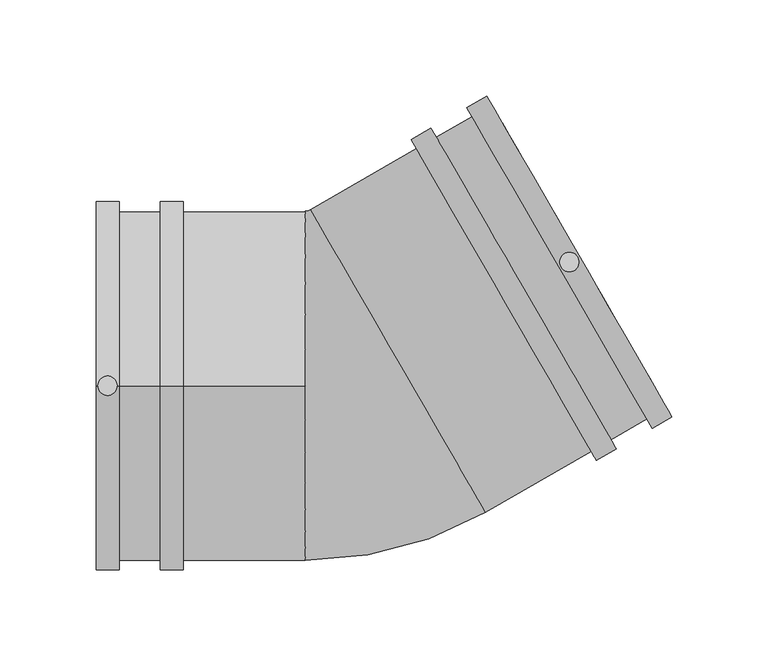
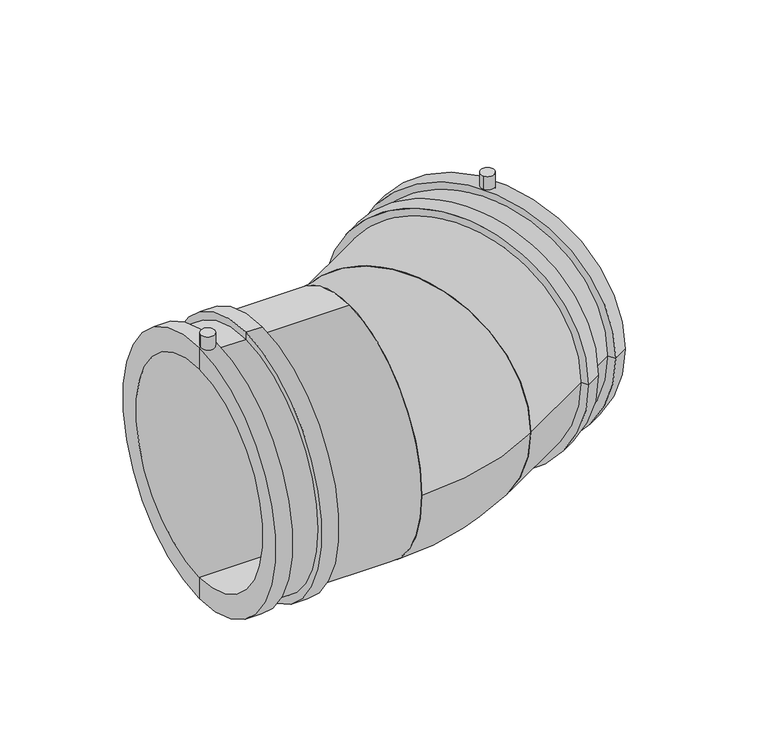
"""IFC4 building model written with IfcOpenShell, lengths in millimetres: pipe fitting geometry, Plumbing_Pipe-Fittings_Plasson_Wastewater-Elbow-30_473304 : Plumbing_Pipe-Fittings_Plasson_Wastewater-Elbow-30_473304."""

from ifc_helpers import new_model, si_unit, point, frame, frame_2d, origin, place, context, project, spatial, polyline, circle_curve, ellipse_curve, trimmed, segment, composite_curve, outline, extrude, source, transform, mapped, element, save
from ifc_brep_helpers import plane_surface, cylinder_surface, revolved_surface, advanced_brep


def pipe_fitting_85c0b7c4(model_context):
    return source(origin(), model_context, "Body", "SolidModel", [
        extrude(outline(composite_curve([segment(trimmed(circle_curve(frame_2d((-128.883892, 0.0)), 5.0), [point((-133.883892, 0.0))], [point((-123.883892, 0.0))], False, "CARTESIAN"), True, "CONTINUOUS"), segment(trimmed(circle_curve(frame_2d((-128.883892, 0.0)), 5.0), [point((-123.883892, 0.0))], [point((-133.883892, 0.0))], False, "CARTESIAN"), True, "CONTINUOUS")], self_intersect=False)), frame((0.0, 0.0, 88.25), z_axis=(0.0, 0.0, 1.0), x_axis=(1.0, 0.0, 0.0)), (0.0, 0.0, 1.0), 17.75),
        extrude(outline(composite_curve([segment(trimmed(circle_curve(frame_2d((111.6167246, 64.441946)), 5.0), [point((107.2865976, 61.941946))], [point((115.9468516, 66.941946))], False, "CARTESIAN"), True, "CONTINUOUS"), segment(trimmed(circle_curve(frame_2d((111.6167246, 64.441946)), 5.0), [point((115.9468516, 66.941946))], [point((107.2865976, 61.941946))], False, "CARTESIAN"), True, "CONTINUOUS")], self_intersect=False)), frame((0.0, 0.0, 88.25), z_axis=(0.0, 0.0, 1.0), x_axis=(1.0, 0.0, 0.0)), (0.0, 0.0, 1.0), 17.75),
        advanced_brep(
        [(156.812877, -1.8400863, 0.0), (76.812877, 136.7239783, 0.0), (-17.583892, 82.2239783, 0.0), (62.416108, -56.3400863, 0.0), (165.062877, -16.1295055, 0.0), (68.562877, 151.0133975, 0.0), (154.6705722, -22.1295055, 0.0), (58.1705722, 145.0133975, 0.0), (151.9205722, -17.3663657, 0.0), (60.9205722, 140.2502577, 0.0), (133.301026, -28.1163657, 0.0), (42.301026, 129.5002577, 0.0), (125.6732101, -38.8711403, 0.0), (29.1732101, 128.2717627, 0.0), (39.551026, 134.2633975, 0.0), (136.051026, -32.8795055, 0.0), (-23.083892, 91.7502577, 0.0), (67.916108, -65.8663657, 0.0), (122.9232101, -34.1080005, 0.0), (31.9232101, 123.508623, 0.0)],
        [
            (0, 1, circle_curve(frame((116.812877, 67.441946, 0.0), z_axis=(0.8660254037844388, 0.49999999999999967, 0.0), x_axis=(-0.49999999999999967, 0.8660254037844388, 0.0)), 80.0)),
            (1, 2),
            (2, 3, circle_curve(frame((22.416108, 12.941946, 0.0), z_axis=(-0.8660254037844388, -0.49999999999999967, 0.0), x_axis=(-0.49999999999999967, 0.8660254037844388, 0.0)), 80.0)),
            (3, 0),
            (1, 0, circle_curve(frame((116.812877, 67.441946, 0.0), z_axis=(0.8660254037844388, 0.49999999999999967, 0.0), x_axis=(-0.49999999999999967, 0.8660254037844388, 0.0)), 80.0)),
            (3, 2, circle_curve(frame((22.416108, 12.941946, 0.0), z_axis=(-0.8660254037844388, -0.49999999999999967, 0.0), x_axis=(-0.49999999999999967, 0.8660254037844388, 0.0)), 80.0)),
            (4, 5, circle_curve(frame((116.812877, 67.441946, 0.0), z_axis=(0.8660254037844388, 0.49999999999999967, 0.0), x_axis=(-0.49999999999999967, 0.8660254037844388, 0.0)), 96.5)),
            (5, 1),
            (0, 4),
            (5, 4, circle_curve(frame((116.812877, 67.441946, 0.0), z_axis=(0.8660254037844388, 0.49999999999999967, 0.0), x_axis=(-0.49999999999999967, 0.8660254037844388, 0.0)), 96.5)),
            (6, 7, circle_curve(frame((106.4205722, 61.441946, 0.0), z_axis=(0.8660254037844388, 0.49999999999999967, 0.0), x_axis=(-0.49999999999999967, 0.8660254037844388, 0.0)), 96.5)),
            (7, 5),
            (4, 6),
            (7, 6, circle_curve(frame((106.4205722, 61.441946, 0.0), z_axis=(0.8660254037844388, 0.49999999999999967, 0.0), x_axis=(-0.49999999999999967, 0.8660254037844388, 0.0)), 96.5)),
            (8, 9, circle_curve(frame((106.4205722, 61.441946, 0.0), z_axis=(0.8660254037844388, 0.49999999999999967, 0.0), x_axis=(-0.49999999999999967, 0.8660254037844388, 0.0)), 91.0)),
            (9, 7),
            (6, 8),
            (9, 8, circle_curve(frame((106.4205722, 61.441946, 0.0), z_axis=(0.8660254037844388, 0.49999999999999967, 0.0), x_axis=(-0.49999999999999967, 0.8660254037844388, 0.0)), 91.0)),
            (10, 11, circle_curve(frame((87.801026, 50.691946, 0.0), z_axis=(0.8660254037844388, 0.49999999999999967, 0.0), x_axis=(-0.49999999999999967, 0.8660254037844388, 0.0)), 91.0)),
            (11, 9),
            (8, 10),
            (11, 10, circle_curve(frame((87.801026, 50.691946, 0.0), z_axis=(0.8660254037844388, 0.49999999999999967, 0.0), x_axis=(-0.49999999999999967, 0.8660254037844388, 0.0)), 91.0)),
            (12, 13, circle_curve(frame((77.4232101, 44.7003112, 0.0), z_axis=(0.8660254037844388, 0.49999999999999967, 0.0), x_axis=(-0.49999999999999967, 0.8660254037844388, 0.0)), 96.5)),
            (13, 14),
            (14, 15, circle_curve(frame((87.801026, 50.691946, 0.0), z_axis=(-0.8660254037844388, -0.49999999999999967, 0.0), x_axis=(-0.49999999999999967, 0.8660254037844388, 0.0)), 96.5)),
            (15, 12),
            (13, 12, circle_curve(frame((77.4232101, 44.7003112, 0.0), z_axis=(0.8660254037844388, 0.49999999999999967, 0.0), x_axis=(-0.49999999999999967, 0.8660254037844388, 0.0)), 96.5)),
            (15, 14, circle_curve(frame((87.801026, 50.691946, 0.0), z_axis=(-0.8660254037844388, -0.49999999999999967, 0.0), x_axis=(-0.49999999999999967, 0.8660254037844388, 0.0)), 96.5)),
            (2, 16),
            (16, 17, circle_curve(frame((22.416108, 12.941946, 0.0), z_axis=(-0.8660254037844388, -0.49999999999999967, 0.0), x_axis=(-0.49999999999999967, 0.8660254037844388, 0.0)), 91.0)),
            (17, 3),
            (17, 16, circle_curve(frame((22.416108, 12.941946, 0.0), z_axis=(-0.8660254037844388, -0.49999999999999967, 0.0), x_axis=(-0.49999999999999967, 0.8660254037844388, 0.0)), 91.0)),
            (14, 11),
            (10, 15),
            (18, 19, circle_curve(frame((77.4232101, 44.7003112, 0.0), z_axis=(0.8660254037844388, 0.49999999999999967, 0.0), x_axis=(-0.49999999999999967, 0.8660254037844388, 0.0)), 91.0)),
            (19, 13),
            (12, 18),
            (19, 18, circle_curve(frame((77.4232101, 44.7003112, 0.0), z_axis=(0.8660254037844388, 0.49999999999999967, 0.0), x_axis=(-0.49999999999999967, 0.8660254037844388, 0.0)), 91.0)),
            (16, 19),
            (18, 17),
        ],
        [
            revolved_surface(polyline([(-17.583891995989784, 82.2239782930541, 0.0), (76.81287700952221, 136.72397828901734, 0.0)]), (0.0, 0.0, 0.0), (-0.8660254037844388, -0.49999999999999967, 0.0)),
            plane_surface(frame((116.812877, 67.441946, 0.0), z_axis=(0.8660254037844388, 0.49999999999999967, 0.0), x_axis=(-0.49999999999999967, 0.8660254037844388, 0.0))),
            cylinder_surface(frame((0.0, 0.0, 0.0), z_axis=(-0.8660254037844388, -0.49999999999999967, 0.0), x_axis=(-0.49999999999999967, 0.8660254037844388, 0.0)), 96.5),
            plane_surface(frame((106.4205722, 61.441946, 0.0), z_axis=(-0.8660254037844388, -0.49999999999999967, 0.0), x_axis=(-0.49999999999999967, 0.8660254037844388, 0.0))),
            cylinder_surface(frame((0.0, 0.0, 0.0), z_axis=(-0.8660254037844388, -0.49999999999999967, 0.0), x_axis=(-0.49999999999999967, 0.8660254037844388, 0.0)), 91.0),
            plane_surface(frame((22.416108, 12.941946, 0.0), z_axis=(-0.8660254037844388, -0.49999999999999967, 0.0), x_axis=(-0.49999999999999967, 0.8660254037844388, 0.0))),
            plane_surface(frame((87.801026, 50.691946, 0.0), z_axis=(0.8660254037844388, 0.49999999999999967, 0.0), x_axis=(-0.49999999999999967, 0.8660254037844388, 0.0))),
            plane_surface(frame((77.4232101, 44.7003112, 0.0), z_axis=(-0.8660254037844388, -0.49999999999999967, 0.0), x_axis=(-0.49999999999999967, 0.8660254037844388, 0.0))),
        ],
        [
            (0, [[1, 2, 3, 4]]),
            (0, [[5, -4, 6, -2]]),
            (1, [[7, 8, -1, 9]]),
            (1, [[10, -9, -5, -8]]),
            (2, [[11, 12, -7, 13]]),
            (2, [[14, -13, -10, -12]]),
            (3, [[15, 16, -11, 17]]),
            (3, [[18, -17, -14, -16]]),
            (4, [[19, 20, -15, 21]]),
            (4, [[22, -21, -18, -20]]),
            (2, [[23, 24, 25, 26]]),
            (2, [[27, -26, 28, -24]]),
            (5, [[-3, 29, 30, 31]]),
            (5, [[-6, -31, 32, -29]]),
            (6, [[-25, 33, -19, 34]]),
            (6, [[-28, -34, -22, -33]]),
            (7, [[35, 36, -23, 37]]),
            (7, [[38, -37, -27, -36]]),
            (4, [[-30, 39, -35, 40]]),
            (4, [[-32, -40, -38, -39]]),
        ],
    ),
        advanced_brep(
        [(-25.883892, -91.0, 0.0), (-25.883892, 91.0, 0.0), (67.916108, -65.8663657, 0.0), (-23.083892, 91.7502577, 0.0)],
        [
            (0, 1, circle_curve(frame((-25.883892, 0.0, 0.0), z_axis=(-1.0, 0.0, 0.0), x_axis=(0.0, 1.0, 0.0)), 91.0)),
            (1, 0, circle_curve(frame((-25.883892, 0.0, 0.0), z_axis=(-1.0, 0.0, 0.0), x_axis=(0.0, 1.0, 0.0)), 91.0)),
            (2, 3, circle_curve(frame((22.416108, 12.941946, 0.0), z_axis=(0.8660254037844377, 0.5000000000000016, 0.0), x_axis=(-0.5000000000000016, 0.8660254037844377, 0.0)), 91.0)),
            (3, 2, circle_curve(frame((22.416108, 12.941946, 0.0), z_axis=(0.8660254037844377, 0.5000000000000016, 0.0), x_axis=(-0.5000000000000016, 0.8660254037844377, 0.0)), 91.0)),
            (3, 1, circle_curve(frame((-25.883892, 96.6, 0.0), z_axis=(0.0, 0.0, -1.0), x_axis=(0.0, -1.0, 0.0)), 5.6)),
            (0, 2, circle_curve(frame((-25.883892, 96.6, 0.0), z_axis=(0.0, 0.0, 1.0), x_axis=(0.0, -1.0, 0.0)), 187.6)),
        ],
        [
            plane_surface(frame((-25.883892, 0.0, 0.0), z_axis=(-1.0, 0.0, 0.0), x_axis=(0.0, 0.0, 1.0))),
            plane_surface(frame((22.416108, 12.941946, 0.0), z_axis=(0.8660254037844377, 0.5000000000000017, 0.0), x_axis=(0.0, 0.0, 1.0))),
            revolved_surface(trimmed(ellipse_curve(frame((-25.883892, 0.0, 0.0), z_axis=(-1.0, 0.0, 0.0), x_axis=(0.0, 1.0, 0.0)), 91.0, 91.0), [point((-25.883892, -91.0, 0.0))], [point((-25.883892, 91.0, 0.0))], True, "CARTESIAN"), (-25.883892, 96.6, 0.0), (0.0, 0.0, 1.0)),
            revolved_surface(trimmed(ellipse_curve(frame((-25.883892, 0.0, 0.0), z_axis=(-1.0, 0.0, 0.0), x_axis=(0.0, 1.0, 0.0)), 91.0, 91.0), [point((-25.883892, 91.0, 0.0))], [point((-25.883892, -91.0, 0.0))], True, "CARTESIAN"), (-25.883892, 96.6, 0.0), (0.0, 0.0, 1.0)),
        ],
        [
            (0, [[1, 2]]),
            (1, [[3, 4]]),
            (2, [[5, -1, 6, -4]]),
            (3, [[-6, -2, -5, -3]]),
        ],
    ),
        advanced_brep(
        [(-25.883892, 0.0, -80.0), (-25.883892, 0.0, 80.0), (-134.883892, 0.0, 80.0), (-134.883892, 0.0, -80.0), (-101.383892, 0.0, -96.5), (-101.383892, 0.0, 96.5), (-89.383892, 0.0, 96.5), (-89.383892, 0.0, -96.5), (-122.883892, 0.0, -91.0), (-122.883892, 0.0, 91.0), (-101.383892, 0.0, 91.0), (-101.383892, 0.0, -91.0), (-122.883892, 0.0, -96.5), (-122.883892, 0.0, 96.5), (-134.883892, 0.0, -96.5), (-134.883892, 0.0, 96.5), (-25.883892, 0.0, -91.0), (-25.883892, 0.0, 91.0), (-89.383892, 0.0, -91.0), (-89.383892, 0.0, 91.0)],
        [
            (0, 1, circle_curve(frame((-25.883892, 0.0, 0.0), z_axis=(1.0, 0.0, 0.0), x_axis=(0.0, 0.0, 1.0)), 80.0)),
            (1, 2),
            (2, 3, circle_curve(frame((-134.883892, 0.0, 0.0), z_axis=(-1.0, 0.0, 0.0), x_axis=(0.0, 0.0, 1.0)), 80.0)),
            (3, 0),
            (1, 0, circle_curve(frame((-25.883892, 0.0, 0.0), z_axis=(1.0, 0.0, 0.0), x_axis=(0.0, 0.0, 1.0)), 80.0)),
            (3, 2, circle_curve(frame((-134.883892, 0.0, 0.0), z_axis=(-1.0, 0.0, 0.0), x_axis=(0.0, 0.0, 1.0)), 80.0)),
            (4, 5, circle_curve(frame((-101.383892, 0.0, 0.0), z_axis=(1.0, 0.0, 0.0), x_axis=(0.0, 0.0, 1.0)), 96.5)),
            (5, 6),
            (6, 7, circle_curve(frame((-89.383892, 0.0, 0.0), z_axis=(-1.0, 0.0, 0.0), x_axis=(0.0, 0.0, 1.0)), 96.5)),
            (7, 4),
            (5, 4, circle_curve(frame((-101.383892, 0.0, 0.0), z_axis=(1.0, 0.0, 0.0), x_axis=(0.0, 0.0, 1.0)), 96.5)),
            (7, 6, circle_curve(frame((-89.383892, 0.0, 0.0), z_axis=(-1.0, 0.0, 0.0), x_axis=(0.0, 0.0, 1.0)), 96.5)),
            (8, 9, circle_curve(frame((-122.883892, 0.0, 0.0), z_axis=(1.0, 0.0, 0.0), x_axis=(0.0, 0.0, 1.0)), 91.0)),
            (9, 10),
            (10, 11, circle_curve(frame((-101.383892, 0.0, 0.0), z_axis=(-1.0, 0.0, 0.0), x_axis=(0.0, 0.0, 1.0)), 91.0)),
            (11, 8),
            (9, 8, circle_curve(frame((-122.883892, 0.0, 0.0), z_axis=(1.0, 0.0, 0.0), x_axis=(0.0, 0.0, 1.0)), 91.0)),
            (11, 10, circle_curve(frame((-101.383892, 0.0, 0.0), z_axis=(-1.0, 0.0, 0.0), x_axis=(0.0, 0.0, 1.0)), 91.0)),
            (12, 13, circle_curve(frame((-122.883892, 0.0, 0.0), z_axis=(1.0, 0.0, 0.0), x_axis=(0.0, 0.0, 1.0)), 96.5)),
            (13, 9),
            (8, 12),
            (13, 12, circle_curve(frame((-122.883892, 0.0, 0.0), z_axis=(1.0, 0.0, 0.0), x_axis=(0.0, 0.0, 1.0)), 96.5)),
            (14, 15, circle_curve(frame((-134.883892, 0.0, 0.0), z_axis=(1.0, 0.0, 0.0), x_axis=(0.0, 0.0, 1.0)), 96.5)),
            (15, 13),
            (12, 14),
            (15, 14, circle_curve(frame((-134.883892, 0.0, 0.0), z_axis=(1.0, 0.0, 0.0), x_axis=(0.0, 0.0, 1.0)), 96.5)),
            (2, 15),
            (14, 3),
            (16, 17, circle_curve(frame((-25.883892, 0.0, 0.0), z_axis=(1.0, 0.0, 0.0), x_axis=(0.0, 0.0, 1.0)), 91.0)),
            (17, 1),
            (0, 16),
            (17, 16, circle_curve(frame((-25.883892, 0.0, 0.0), z_axis=(1.0, 0.0, 0.0), x_axis=(0.0, 0.0, 1.0)), 91.0)),
            (18, 19, circle_curve(frame((-89.383892, 0.0, 0.0), z_axis=(1.0, 0.0, 0.0), x_axis=(0.0, 0.0, 1.0)), 91.0)),
            (19, 17),
            (16, 18),
            (19, 18, circle_curve(frame((-89.383892, 0.0, 0.0), z_axis=(1.0, 0.0, 0.0), x_axis=(0.0, 0.0, 1.0)), 91.0)),
            (6, 19),
            (18, 7),
            (10, 5),
            (4, 11),
        ],
        [
            revolved_surface(polyline([(-134.883892, 0.0, 80.0), (-25.883892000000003, 0.0, 80.0)]), (-134.883892, 0.0, 0.0), (-1.0, 0.0, 0.0)),
            cylinder_surface(frame((-134.883892, 0.0, 0.0), z_axis=(-1.0, 0.0, 0.0), x_axis=(0.0, 0.0, 1.0)), 96.5),
            cylinder_surface(frame((-134.883892, 0.0, 0.0), z_axis=(-1.0, 0.0, 0.0), x_axis=(0.0, 0.0, 1.0)), 91.0),
            plane_surface(frame((-122.883892, 0.0, 0.0), z_axis=(1.0, 0.0, 0.0), x_axis=(0.0, 0.0, 1.0))),
            plane_surface(frame((-134.883892, 0.0, 0.0), z_axis=(-1.0, 0.0, 0.0), x_axis=(0.0, 0.0, 1.0))),
            plane_surface(frame((-25.883892, 0.0, 0.0), z_axis=(1.0, 0.0, 0.0), x_axis=(0.0, 0.0, 1.0))),
            plane_surface(frame((-89.383892, 0.0, 0.0), z_axis=(1.0, 0.0, 0.0), x_axis=(0.0, 0.0, 1.0))),
            plane_surface(frame((-101.383892, 0.0, 0.0), z_axis=(-1.0, 0.0, 0.0), x_axis=(0.0, 0.0, 1.0))),
        ],
        [
            (0, [[1, 2, 3, 4]]),
            (0, [[5, -4, 6, -2]]),
            (1, [[7, 8, 9, 10]]),
            (1, [[11, -10, 12, -8]]),
            (2, [[13, 14, 15, 16]]),
            (2, [[17, -16, 18, -14]]),
            (3, [[19, 20, -13, 21]]),
            (3, [[22, -21, -17, -20]]),
            (1, [[23, 24, -19, 25]]),
            (1, [[26, -25, -22, -24]]),
            (4, [[-3, 27, -23, 28]]),
            (4, [[-6, -28, -26, -27]]),
            (5, [[29, 30, -1, 31]]),
            (5, [[32, -31, -5, -30]]),
            (2, [[33, 34, -29, 35]]),
            (2, [[36, -35, -32, -34]]),
            (6, [[-9, 37, -33, 38]]),
            (6, [[-12, -38, -36, -37]]),
            (7, [[-15, 39, -7, 40]]),
            (7, [[-18, -40, -11, -39]]),
        ],
    ),
    ])


if __name__ == "__main__":
    model = new_model("IFC4")
    model_context = context("Model", 3, world=origin())
    ifc_project = project(units=[si_unit("LENGTHUNIT", "METRE", prefix="MILLI")], contexts=[model_context])
    site = spatial("IfcSite", under=ifc_project)
    building = spatial("IfcBuilding", under=site)
    placement = place(None, origin())
    pipe_fitting_shape = pipe_fitting_85c0b7c4(model_context)
    element("IfcPipeFitting", 1, ObjectType="Plumbing_Pipe-Fittings_Plasson_Wastewater-Elbow-30_473304 : Plumbing_Pipe-Fittings_Plasson_Wastewater-Elbow-30_473304", at=placement, inside=building, context=model_context, shape_type="MappedRepresentation", body=[
        mapped(pipe_fitting_shape, transform((0.0, 0.0, 0.0), x_axis=(1.0, 0.0, 0.0), y_axis=(0.0, 1.0, 0.0), z_axis=(0.0, 0.0, 1.0))),
    ])
    save(model, "model.ifc")
